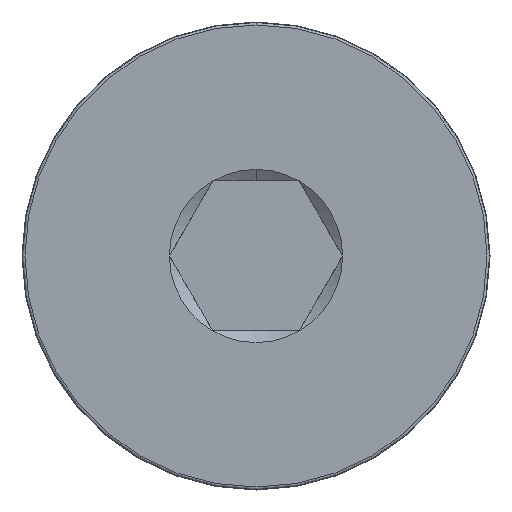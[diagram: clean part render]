
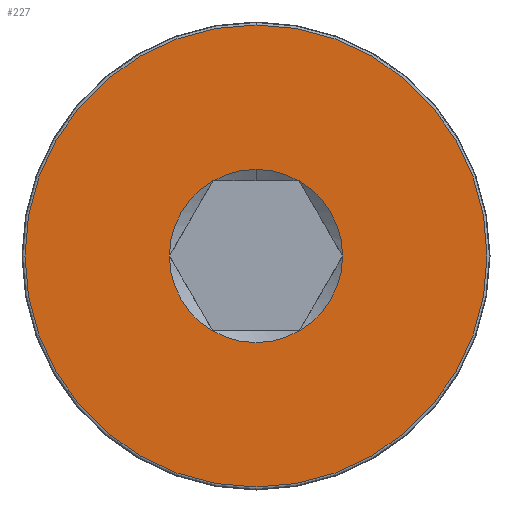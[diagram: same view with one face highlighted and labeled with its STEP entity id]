
A CAD part, left-side view. The second image highlights one B-rep face of the part: STEP entity #227.
In plain terms, the highlighted planar face has unit normal (-1, 0, 0).
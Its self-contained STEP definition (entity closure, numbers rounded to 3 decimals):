
#6 = AXIS2_PLACEMENT_3D ( 'NONE', #475, #469, #45 ) ;
#7 = DIRECTION ( 'NONE',  ( 1., 0., 0. ) ) ;
#17 = CIRCLE ( 'NONE', #670, 1.443 ) ;
#20 = DIRECTION ( 'NONE',  ( 0., 0., 1. ) ) ;
#25 = DIRECTION ( 'NONE',  ( 0., 0., -1. ) ) ;
#28 = ORIENTED_EDGE ( 'NONE', *, *, #203, .T. ) ;
#29 = CARTESIAN_POINT ( 'NONE',  ( 0., 0., 0. ) ) ;
#30 = CIRCLE ( 'NONE', #629, 1.443 ) ;
#43 = CARTESIAN_POINT ( 'NONE',  ( 0., 0.722, 1.25 ) ) ;
#45 = DIRECTION ( 'NONE',  ( 0., 0., -1. ) ) ;
#46 = EDGE_CURVE ( 'NONE', #412, #643, #375, .T. ) ;
#84 = PLANE ( 'NONE',  #115 ) ;
#93 = VERTEX_POINT ( 'NONE', #180 ) ;
#97 = VERTEX_POINT ( 'NONE', #133 ) ;
#103 = EDGE_CURVE ( 'NONE', #97, #444, #173, .T. ) ;
#114 = CARTESIAN_POINT ( 'NONE',  ( 0., 0., 0. ) ) ;
#115 = AXIS2_PLACEMENT_3D ( 'NONE', #766, #575, #502 ) ;
#133 = CARTESIAN_POINT ( 'NONE',  ( 0., 0., 3.85 ) ) ;
#135 = CARTESIAN_POINT ( 'NONE',  ( 0., 0., 0. ) ) ;
#139 = CARTESIAN_POINT ( 'NONE',  ( 0., 0., 0. ) ) ;
#146 = FACE_BOUND ( 'NONE', #704, .T. ) ;
#173 = CIRCLE ( 'NONE', #403, 3.85 ) ;
#174 = ORIENTED_EDGE ( 'NONE', *, *, #432, .T. ) ;
#180 = CARTESIAN_POINT ( 'NONE',  ( 0., -0.722, 1.25 ) ) ;
#181 = DIRECTION ( 'NONE',  ( 0., 0., -1. ) ) ;
#182 = DIRECTION ( 'NONE',  ( -1., 0., 0. ) ) ;
#187 = ORIENTED_EDGE ( 'NONE', *, *, #103, .T. ) ;
#189 = CARTESIAN_POINT ( 'NONE',  ( 0., 0., 0. ) ) ;
#193 = VERTEX_POINT ( 'NONE', #641 ) ;
#200 = DIRECTION ( 'NONE',  ( 1., 0., 0. ) ) ;
#203 = EDGE_CURVE ( 'NONE', #640, #269, #30, .T. ) ;
#227 = ADVANCED_FACE ( 'NONE', ( #258, #146 ), #84, .T. ) ;
#242 = CARTESIAN_POINT ( 'NONE',  ( 0., 0., 0. ) ) ;
#255 = CARTESIAN_POINT ( 'NONE',  ( 0., 0., -3.85 ) ) ;
#256 = DIRECTION ( 'NONE',  ( 0., 0., 1. ) ) ;
#258 = FACE_OUTER_BOUND ( 'NONE', #350, .T. ) ;
#269 = VERTEX_POINT ( 'NONE', #686 ) ;
#277 = DIRECTION ( 'NONE',  ( 0., 0., -1. ) ) ;
#311 = CARTESIAN_POINT ( 'NONE',  ( 0., 0., 0. ) ) ;
#312 = AXIS2_PLACEMENT_3D ( 'NONE', #311, #555, #431 ) ;
#321 = DIRECTION ( 'NONE',  ( -1., 0., 0. ) ) ;
#326 = CARTESIAN_POINT ( 'NONE',  ( 0., 0.722, -1.25 ) ) ;
#350 = EDGE_LOOP ( 'NONE', ( #187, #356 ) ) ;
#356 = ORIENTED_EDGE ( 'NONE', *, *, #642, .T. ) ;
#375 = CIRCLE ( 'NONE', #312, 1.443 ) ;
#376 = AXIS2_PLACEMENT_3D ( 'NONE', #29, #321, #20 ) ;
#386 = DIRECTION ( 'NONE',  ( 1., 0., 0. ) ) ;
#403 = AXIS2_PLACEMENT_3D ( 'NONE', #114, #182, #256 ) ;
#412 = VERTEX_POINT ( 'NONE', #43 ) ;
#430 = AXIS2_PLACEMENT_3D ( 'NONE', #135, #200, #25 ) ;
#431 = DIRECTION ( 'NONE',  ( 0., 0., -1. ) ) ;
#432 = EDGE_CURVE ( 'NONE', #193, #507, #567, .T. ) ;
#444 = VERTEX_POINT ( 'NONE', #255 ) ;
#447 = ORIENTED_EDGE ( 'NONE', *, *, #455, .T. ) ;
#455 = EDGE_CURVE ( 'NONE', #643, #93, #467, .T. ) ;
#456 = CIRCLE ( 'NONE', #6, 1.443 ) ;
#467 = CIRCLE ( 'NONE', #492, 1.443 ) ;
#469 = DIRECTION ( 'NONE',  ( 1., 0., 0. ) ) ;
#471 = ORIENTED_EDGE ( 'NONE', *, *, #561, .T. ) ;
#475 = CARTESIAN_POINT ( 'NONE',  ( 0., 0., 0. ) ) ;
#480 = EDGE_CURVE ( 'NONE', #269, #412, #17, .T. ) ;
#492 = AXIS2_PLACEMENT_3D ( 'NONE', #242, #742, #496 ) ;
#496 = DIRECTION ( 'NONE',  ( 0., 0., -1. ) ) ;
#498 = DIRECTION ( 'NONE',  ( 0., 0., -1. ) ) ;
#502 = DIRECTION ( 'NONE',  ( 0., 0., 1. ) ) ;
#507 = VERTEX_POINT ( 'NONE', #549 ) ;
#549 = CARTESIAN_POINT ( 'NONE',  ( 0., -0.722, -1.25 ) ) ;
#555 = DIRECTION ( 'NONE',  ( 1., 0., 0. ) ) ;
#561 = EDGE_CURVE ( 'NONE', #93, #193, #658, .T. ) ;
#564 = CARTESIAN_POINT ( 'NONE',  ( 0., 0., 1.443 ) ) ;
#567 = CIRCLE ( 'NONE', #694, 1.443 ) ;
#575 = DIRECTION ( 'NONE',  ( -1., 0., 0. ) ) ;
#609 = ORIENTED_EDGE ( 'NONE', *, *, #46, .T. ) ;
#617 = CIRCLE ( 'NONE', #376, 3.85 ) ;
#627 = ORIENTED_EDGE ( 'NONE', *, *, #480, .T. ) ;
#629 = AXIS2_PLACEMENT_3D ( 'NONE', #139, #386, #277 ) ;
#640 = VERTEX_POINT ( 'NONE', #326 ) ;
#641 = CARTESIAN_POINT ( 'NONE',  ( 0., -1.443, 0. ) ) ;
#642 = EDGE_CURVE ( 'NONE', #444, #97, #617, .T. ) ;
#643 = VERTEX_POINT ( 'NONE', #564 ) ;
#658 = CIRCLE ( 'NONE', #430, 1.443 ) ;
#670 = AXIS2_PLACEMENT_3D ( 'NONE', #189, #745, #498 ) ;
#671 = CARTESIAN_POINT ( 'NONE',  ( 0., 0., 0. ) ) ;
#686 = CARTESIAN_POINT ( 'NONE',  ( 0., 1.443, 0. ) ) ;
#694 = AXIS2_PLACEMENT_3D ( 'NONE', #671, #7, #181 ) ;
#704 = EDGE_LOOP ( 'NONE', ( #627, #609, #447, #471, #174, #770, #28 ) ) ;
#736 = EDGE_CURVE ( 'NONE', #507, #640, #456, .T. ) ;
#742 = DIRECTION ( 'NONE',  ( 1., 0., 0. ) ) ;
#745 = DIRECTION ( 'NONE',  ( 1., 0., 0. ) ) ;
#766 = CARTESIAN_POINT ( 'NONE',  ( 0., 0., 0. ) ) ;
#770 = ORIENTED_EDGE ( 'NONE', *, *, #736, .T. ) ;
